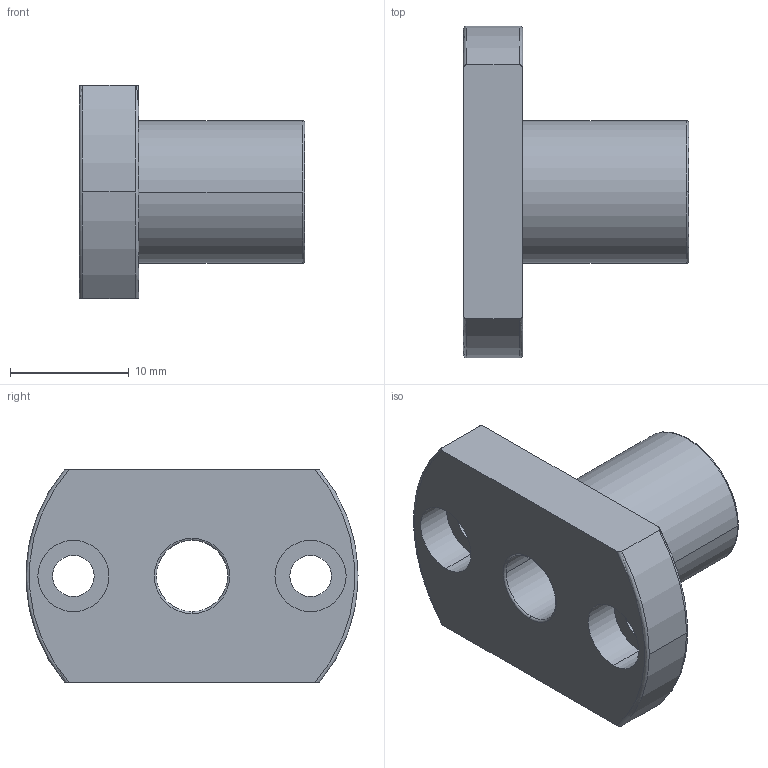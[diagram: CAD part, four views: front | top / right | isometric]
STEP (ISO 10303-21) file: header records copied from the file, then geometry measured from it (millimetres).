
FILE_DESCRIPTION(('FreeCAD Model'),'2;1');
FILE_NAME('Open CASCADE Shape Model','2021-05-03T13:34:37',('Author'),( ''),'Open CASCADE STEP processor 7.5','FreeCAD','Unknown');
FILE_SCHEMA(('AUTOMOTIVE_DESIGN { 1 0 10303 214 1 1 1 1 }'));
Length unit declared in the file: millimetre
Products named in the file (1): linear_lmh6uu
Bounding box: 19 x 28 x 18 mm (x, y, z)
Volume: 3166.1 mm3; surface area: 2277.6 mm2
Topology: 1 solids, 1 shells, 33 faces, 87 edges, 59 vertices
Faces by surface type: cylinder 16, torus 10, plane 7
Entity records: 2774 total; most frequent: CARTESIAN_POINT 1000, DIRECTION 345, ORIENTED_EDGE 174, PCURVE 174, DEFINITIONAL_REPRESENTATION 174, LINE 149, VECTOR 149, AXIS2_PLACEMENT_3D 91
